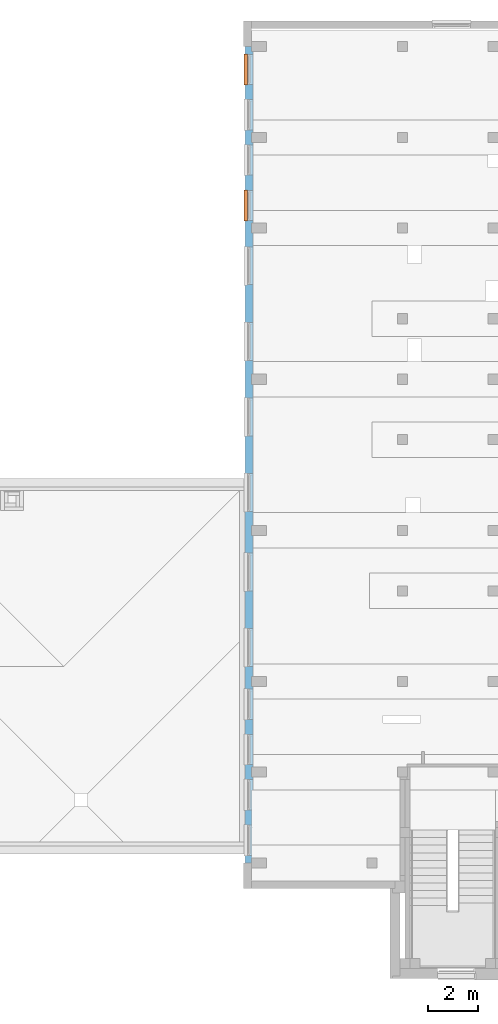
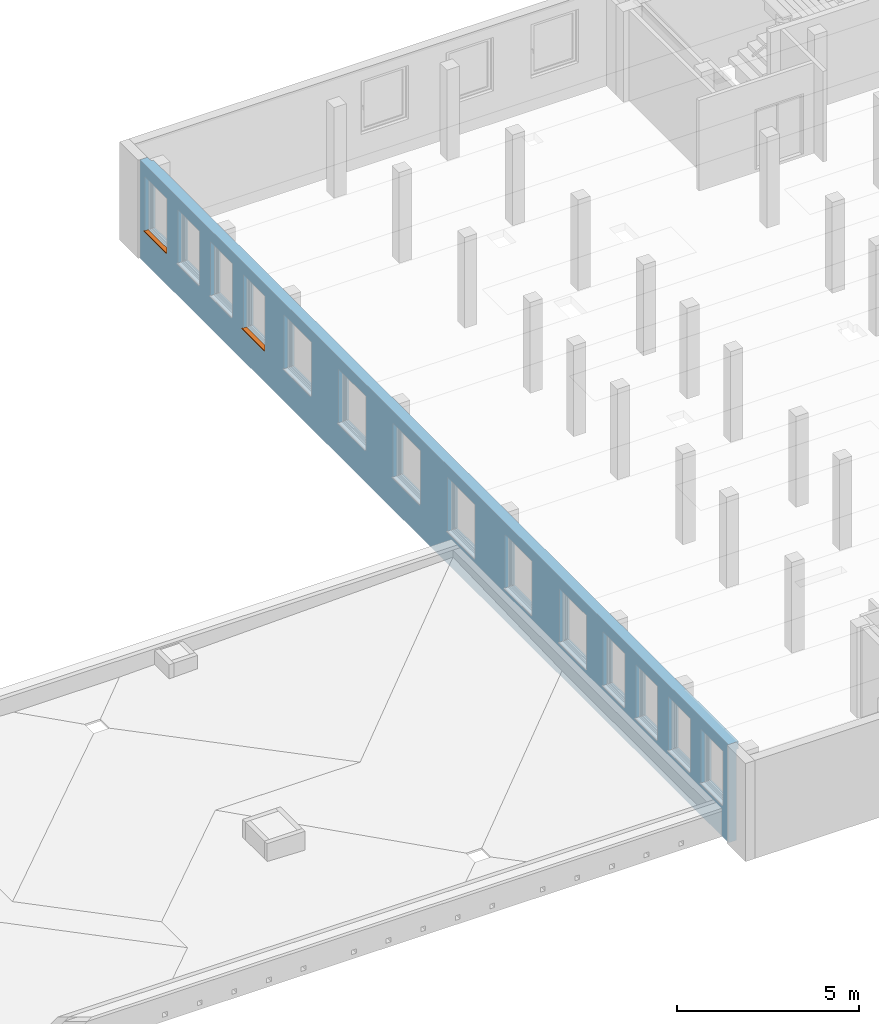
# One storey, part 21 of 27: 2 proxies, 14 openings, plus 1 element that does not belong to this part.
"""IFC4 building model written with IfcOpenShell, lengths in metres."""

from ifc_helpers import new_model, entity, si_unit, converted_unit, derived_unit, frame, origin, origin_with_axes, place, context, subcontext, project, spatial, polyline, outline, extrude, clip, bounded_halfspace, faceted_brep, source, transform, mapped, material, layer, layer_set, layer_usage, element, fill, save


model = new_model("IFC4")

# Units and contexts
model_context = context("Model", 3, precision=1e-05, world=origin())
body_context = subcontext(model_context, "Body", "Model", "MODEL_VIEW")
ifc_project = project(units=[si_unit("LENGTHUNIT", "METRE"), si_unit("AREAUNIT", "SQUARE_METRE"), si_unit("VOLUMEUNIT", "CUBIC_METRE"), si_unit("MASSUNIT", "GRAM", prefix="KILO"), converted_unit("PLANEANGLEUNIT", "DEGREE", entity("IfcPlaneAngleMeasure", 0.0174532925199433), si_unit("PLANEANGLEUNIT", "RADIAN"), dimensions=[0, 0, 0, 0, 0, 0, 0]), derived_unit("THERMALTRANSMITTANCEUNIT", [(si_unit("POWERUNIT", "WATT"), 1), (si_unit("THERMODYNAMICTEMPERATUREUNIT", "KELVIN"), -1), (si_unit("LENGTHUNIT", "METRE"), -2)]), derived_unit("VOLUMETRICFLOWRATEUNIT", [(si_unit("LENGTHUNIT", "METRE"), 3), (converted_unit("TIMEUNIT", "hour", entity("IfcTimeMeasure", 3600.0), si_unit("TIMEUNIT", "SECOND"), dimensions=[0, 0, 1, 0, 0, 0, 0]), -1), (si_unit("LENGTHUNIT", "METRE"), -1)])], contexts=[model_context])

# Site, building, storey
site_placement = place(None, origin())
site = spatial("IfcSite", under=ifc_project, at=site_placement, Name="3. ASŘ", CompositionType="ELEMENT")
building_placement = place(site_placement, origin())
building = spatial("IfcBuilding", under=site, at=building_placement, Name="Pavilon C", CompositionType="ELEMENT")
storey_placement = place(building_placement, frame((0.0, 0.0, 7.2)))
storey = spatial("IfcBuildingStorey", under=building, at=storey_placement, Name="Půdorys 3.NP", CompositionType="ELEMENT", Elevation=7.2)

# Wall, openings, proxies
ifc_material_1 = material(Name="ZELEZOBETONOVÁ KCE")
ifc_layer = layer(ifc_material_1, 0.32)
ifc_layer_set = layer_set([ifc_layer])
ifc_layer_usage = layer_usage(ifc_layer_set, "AXIS2", "POSITIVE", 0.0)
wall_placement = place(storey_placement, frame((24.5, 32.4, -0.1), z_axis=(0.0, 0.0, 1.0), x_axis=(-2.24566593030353e-16, -1.0, 0.0)))
wall = element("IfcWall", 1, at=wall_placement, inside=storey, material=ifc_layer_usage, Name="ZELEZOBETONOVÁ KCE", context=body_context, shape_type="Clipping", body=[
    clip(clip(clip(clip(clip(clip(clip(extrude(outline(polyline([(-32.4, 0.0), (-7.18613097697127e-17, -1.61376495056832e-32), (-7.18613097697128e-17, 0.32), (-32.2, 0.32), (-32.2, 0.25), (-32.4, 0.25), (-32.4, 0.0)])), frame((32.4, 0.0, 0.0), z_axis=(0.0, 0.0, 1.0), x_axis=(1.0, 0.0, 0.0)), (0.0, 0.0, 1.0), 3.3), bounded_halfspace(frame((7.2, 0.285000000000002, 3.05), z_axis=(0.0, 0.0, 1.0), x_axis=(2.24566593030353e-16, -1.0, 0.0)), True, origin_with_axes(), polyline([(7.0, 0.320000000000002), (7.0, 0.250000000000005), (7.4, 0.250000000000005), (7.4, 0.320000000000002), (7.0, 0.320000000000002)]))), bounded_halfspace(frame((3.6, 0.285000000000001, 3.05), z_axis=(0.0, 0.0, 1.0), x_axis=(2.24566593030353e-16, -1.0, 0.0)), True, origin_with_axes(), polyline([(3.4, 0.320000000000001), (3.4, 0.250000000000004), (3.8, 0.250000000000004), (3.8, 0.320000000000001), (3.4, 0.320000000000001)]))), bounded_halfspace(frame((19.2, 0.285000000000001, 3.05), z_axis=(0.0, 0.0, 1.0), x_axis=(2.24566593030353e-16, -1.0, 0.0)), True, origin_with_axes(), polyline([(19.0, 0.320000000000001), (19.0, 0.249999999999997), (19.4, 0.249999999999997), (19.4, 0.320000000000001), (19.0, 0.320000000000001)]))), bounded_halfspace(frame((25.2, 0.284999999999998, 3.05), z_axis=(0.0, 0.0, 1.0), x_axis=(2.24566593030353e-16, -1.0, 0.0)), True, origin_with_axes(), polyline([(25.0, 0.319999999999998), (25.0, 0.249999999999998), (25.4, 0.249999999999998), (25.4, 0.319999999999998), (25.0, 0.319999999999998)]))), bounded_halfspace(frame((28.8, 0.284999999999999, 3.05), z_axis=(0.0, 0.0, 1.0), x_axis=(2.24566593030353e-16, -1.0, 0.0)), True, origin_with_axes(), polyline([(28.6, 0.319999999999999), (28.6, 0.249999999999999), (29.0, 0.249999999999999), (29.0, 0.319999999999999), (28.6, 0.319999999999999)]))), bounded_halfspace(frame((32.3, 0.285, 3.05), z_axis=(0.0, 0.0, 1.0), x_axis=(2.24566593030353e-16, -1.0, 0.0)), True, origin_with_axes(), polyline([(32.2, 0.32), (32.2, 0.25), (32.4, 0.25), (32.4, 0.32), (32.2, 0.32)]))), bounded_halfspace(frame((13.2, 0.285000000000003, 3.05), z_axis=(0.0, 0.0, 1.0), x_axis=(2.24566593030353e-16, -1.0, 0.0)), True, origin_with_axes(), polyline([(13.0, 0.319999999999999), (13.0, 0.250000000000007), (13.4, 0.250000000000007), (13.4, 0.319999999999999), (13.0, 0.319999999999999)]))),
])
opening_1_placement = place(wall_placement, frame((25.5, -1.54950949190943e-15, 1.1), z_axis=(0.0, 1.0, 0.0), x_axis=(0.0, 0.0, 1.0)))
element("IfcOpeningElement", 2, at=opening_1_placement, cuts=wall, Name="Okenní otvor", ObjectType="Opening", context=body_context, shape_type="SweptSolid", body=[
    extrude(outline(polyline([(0.0, 1.2), (1.8, 1.2), (1.8, 0.0), (0.0, 0.0), (0.0, 1.2)])), origin_with_axes(), (0.0, 0.0, 1.0), 0.32),
])
opening_2_placement = place(wall_placement, frame((27.3, -1.1452896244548e-15, 1.1), z_axis=(0.0, 1.0, 0.0), x_axis=(0.0, 0.0, 1.0)))
element("IfcOpeningElement", 3, at=opening_2_placement, cuts=wall, Name="Okenní otvor", ObjectType="Opening", context=body_context, shape_type="SweptSolid", body=[
    extrude(outline(polyline([(0.0, 1.2), (1.8, 1.2), (1.8, 0.0), (0.0, 0.0), (0.0, 1.2)])), origin_with_axes(), (0.0, 0.0, 1.0), 0.32),
])
opening_3_placement = place(wall_placement, frame((29.1, -7.41069757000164e-16, 1.1), z_axis=(0.0, 1.0, 0.0), x_axis=(0.0, 0.0, 1.0)))
element("IfcOpeningElement", 4, at=opening_3_placement, cuts=wall, Name="Okenní otvor", ObjectType="Opening", context=body_context, shape_type="SweptSolid", body=[
    extrude(outline(polyline([(0.0, 1.2), (1.8, 1.2), (1.8, 0.0), (0.0, 0.0), (0.0, 1.2)])), origin_with_axes(), (0.0, 0.0, 1.0), 0.32),
])
opening_4_placement = place(wall_placement, frame((30.9, -3.36849889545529e-16, 1.1), z_axis=(0.0, 1.0, 0.0), x_axis=(0.0, 0.0, 1.0)))
element("IfcOpeningElement", 5, at=opening_4_placement, cuts=wall, Name="Okenní otvor", ObjectType="Opening", context=body_context, shape_type="SweptSolid", body=[
    extrude(outline(polyline([(0.0, 1.2), (1.8, 1.2), (1.8, 0.0), (0.0, 0.0), (0.0, 1.2)])), origin_with_axes(), (0.0, 0.0, 1.0), 0.32),
])
opening_5_placement = place(wall_placement, frame((13.95, -5.05274834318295e-16, 1.1), z_axis=(0.0, 1.0, 0.0), x_axis=(0.0, 0.0, 1.0)))
element("IfcOpeningElement", 6, at=opening_5_placement, cuts=wall, Name="Okenní otvor", ObjectType="Opening", context=body_context, shape_type="SweptSolid", body=[
    extrude(outline(polyline([(0.0, 1.5), (1.8, 1.5), (1.8, 0.0), (0.0, 0.0), (0.0, 1.5)])), origin_with_axes(), (0.0, 0.0, 1.0), 0.32),
])
opening_6_placement = place(wall_placement, frame((10.95, -1.17897461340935e-15, 1.1), z_axis=(0.0, 1.0, 0.0), x_axis=(0.0, 0.0, 1.0)))
element("IfcOpeningElement", 7, at=opening_6_placement, cuts=wall, Name="Okenní otvor", ObjectType="Opening", context=body_context, shape_type="SweptSolid", body=[
    extrude(outline(polyline([(0.0, 1.5), (1.8, 1.5), (1.8, 0.0), (0.0, 0.0), (0.0, 1.5)])), origin_with_axes(), (0.0, 0.0, 1.0), 0.32),
])
opening_7_placement = place(wall_placement, frame((16.95, 1.68424944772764e-16, 1.1), z_axis=(0.0, 1.0, 0.0), x_axis=(0.0, 0.0, 1.0)))
element("IfcOpeningElement", 8, at=opening_7_placement, cuts=wall, Name="Okenní otvor", ObjectType="Opening", context=body_context, shape_type="SweptSolid", body=[
    extrude(outline(polyline([(0.0, 1.5), (1.8, 1.5), (1.8, 0.0), (0.0, 0.0), (0.0, 1.5)])), origin_with_axes(), (0.0, 0.0, 1.0), 0.32),
])
opening_8_placement = place(wall_placement, frame((20.1, 8.75809712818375e-16, 1.1), z_axis=(0.0, 1.0, 0.0), x_axis=(0.0, 0.0, 1.0)))
element("IfcOpeningElement", 9, at=opening_8_placement, cuts=wall, Name="Okenní otvor", ObjectType="Opening", context=body_context, shape_type="SweptSolid", body=[
    extrude(outline(polyline([(0.0, 1.5), (1.8, 1.5), (1.8, 0.0), (0.0, 0.0), (0.0, 1.5)])), origin_with_axes(), (0.0, 0.0, 1.0), 0.32),
])
opening_9_placement = place(wall_placement, frame((23.1, -2.08846931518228e-15, 1.1), z_axis=(0.0, 1.0, 0.0), x_axis=(0.0, 0.0, 1.0)))
element("IfcOpeningElement", 10, at=opening_9_placement, cuts=wall, Name="Okenní otvor", ObjectType="Opening", context=body_context, shape_type="SweptSolid", body=[
    extrude(outline(polyline([(0.0, 1.5), (1.8, 1.5), (1.8, 0.0), (0.0, 0.0), (0.0, 1.5)])), origin_with_axes(), (0.0, 0.0, 1.0), 0.320000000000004),
])
opening_10_placement = place(wall_placement, frame((7.95, -1.85267439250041e-15, 1.1), z_axis=(0.0, 1.0, 0.0), x_axis=(0.0, 0.0, 1.0)))
element("IfcOpeningElement", 11, at=opening_10_placement, cuts=wall, Name="Okenní otvor", ObjectType="Opening", context=body_context, shape_type="SweptSolid", body=[
    extrude(outline(polyline([(0.0, 1.5), (1.8, 1.5), (1.8, 0.0), (0.0, 0.0), (0.0, 1.5)])), origin_with_axes(), (0.0, 0.0, 1.0), 0.320000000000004),
])
opening_11_placement = place(wall_placement, frame((2.10000000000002, 4.71589845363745e-16, 1.1), z_axis=(0.0, 1.0, 0.0), x_axis=(0.0, 0.0, 1.0)))
element("IfcOpeningElement", 12, at=opening_11_placement, cuts=wall, Name="Okenní otvor", ObjectType="Opening", context=body_context, shape_type="SweptSolid", body=[
    extrude(outline(polyline([(0.0, 1.2), (1.8, 1.2), (1.8, 0.0), (0.0, 0.0), (0.0, 1.2)])), origin_with_axes(), (0.0, 0.0, 1.0), 0.32),
])
opening_12_placement = place(wall_placement, frame((3.90000000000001, 8.75809712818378e-16, 1.1), z_axis=(0.0, 1.0, 0.0), x_axis=(0.0, 0.0, 1.0)))
element("IfcOpeningElement", 13, at=opening_12_placement, cuts=wall, Name="Okenní otvor", ObjectType="Opening", context=body_context, shape_type="SweptSolid", body=[
    extrude(outline(polyline([(0.0, 1.2), (1.8, 1.2), (1.8, 0.0), (0.0, 0.0), (0.0, 1.2)])), origin_with_axes(), (0.0, 0.0, 1.0), 0.32),
])
opening_13_placement = place(wall_placement, frame((5.7, 1.28002958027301e-15, 1.1), z_axis=(0.0, 1.0, 0.0), x_axis=(0.0, 0.0, 1.0)))
opening_13 = element("IfcOpeningElement", 14, at=opening_13_placement, cuts=wall, Name="Okenní otvor", ObjectType="Opening", context=body_context, shape_type="SweptSolid", body=[
    extrude(outline(polyline([(0.0, 1.2), (1.8, 1.2), (1.8, 0.0), (0.0, 0.0), (0.0, 1.2)])), origin_with_axes(), (0.0, 0.0, 1.0), 0.32),
])
opening_14_placement = place(wall_placement, frame((0.300000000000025, 6.73699779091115e-17, 1.1), z_axis=(-1.77635683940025e-16, 1.0, 0.0), x_axis=(0.0, 0.0, 1.0)))
opening_14 = element("IfcOpeningElement", 15, at=opening_14_placement, cuts=wall, Name="Okenní otvor", ObjectType="Opening", context=body_context, shape_type="SweptSolid", body=[
    extrude(outline(polyline([(0.0, 1.2), (1.8, 1.2), (1.8, 0.0), (0.0, 0.0), (0.0, 1.2)])), origin_with_axes(), (0.0, 0.0, 1.0), 0.32),
])
ifc_material_2 = material(Name="PLECH")
shared_shape_1 = source(origin_with_axes(), body_context, "Body", "Brep", [
    faceted_brep([(7.27595761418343e-15, -7.27595761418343e-15, 0.0), (7.27595761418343e-15, 0.0999999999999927, 0.0), (7.27595761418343e-15, 0.0999999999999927, 0.005), (7.27595761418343e-15, -7.27595761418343e-15, 0.005), (1.20000000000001, -7.27595761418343e-15, 0.0), (1.20000000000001, -7.27595761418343e-15, 0.005), (1.20000000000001, 0.0999999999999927, 0.005), (1.20000000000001, 0.0999999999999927, 0.0), (-0.0199999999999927, -7.27595761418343e-15, 0.0), (-0.0199999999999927, -0.0350000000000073, 0.0), (1.22000000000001, -0.0350000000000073, 0.0), (1.22000000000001, -7.27595761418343e-15, 0.0), (1.22000000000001, -7.27595761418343e-15, 0.005), (1.22000000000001, -0.0400000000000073, 0.005), (-0.0199999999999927, -0.0400000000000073, 0.005), (-0.0199999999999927, -7.27595761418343e-15, 0.005), (-0.0199999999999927, -0.0400000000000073, -0.025), (-0.0199999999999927, -0.0350000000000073, -0.025), (1.22000000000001, -0.0350000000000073, -0.025), (1.22000000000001, -0.0400000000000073, -0.025)], [[[0, 1, 2, 3]], [[4, 5, 6, 7]], [[1, 0, 8, 9, 10, 11, 4, 7]], [[2, 1, 7, 6]], [[3, 2, 6, 5, 12, 13, 14, 15]], [[8, 15, 14, 16, 17, 9]], [[11, 10, 18, 19, 13, 12]], [[15, 8, 0, 3]], [[5, 4, 11, 12]], [[16, 14, 13, 19]], [[17, 16, 19, 18]], [[9, 17, 18, 10]]], orient=[[False], [False], [False], [False], [False], [False], [False], [False], [False], [False], [False], [False]]),
    faceted_brep([(-0.0199999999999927, -7.27595761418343e-15, 0.0), (-0.0199999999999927, 0.0999999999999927, 0.0), (-0.0199999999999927, 0.0999999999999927, 0.005), (-0.0199999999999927, -7.27595761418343e-15, 0.005), (7.27595761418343e-15, -7.27595761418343e-15, 0.0), (7.27595761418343e-15, -7.27595761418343e-15, 0.005), (7.27595761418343e-15, 0.0999999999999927, 0.005), (7.27595761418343e-15, 0.0999999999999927, 0.0)], [[[0, 1, 2, 3]], [[4, 5, 6, 7]], [[1, 0, 4, 7]], [[2, 1, 7, 6]], [[3, 2, 6, 5]], [[0, 3, 5, 4]]], orient=[[False], [False], [False], [False], [False], [False]]),
    faceted_brep([(1.20000000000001, -7.27595761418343e-15, 0.0), (1.20000000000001, 0.0999999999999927, 0.0), (1.20000000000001, 0.0999999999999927, 0.005), (1.20000000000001, -7.27595761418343e-15, 0.005), (1.22000000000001, -7.27595761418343e-15, 0.0), (1.22000000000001, -7.27595761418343e-15, 0.005), (1.22000000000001, 0.0999999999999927, 0.005), (1.22000000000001, 0.0999999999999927, 0.0)], [[[0, 1, 2, 3]], [[4, 5, 6, 7]], [[1, 0, 4, 7]], [[2, 1, 7, 6]], [[3, 2, 6, 5]], [[0, 3, 5, 4]]], orient=[[False], [False], [False], [False], [False], [False]]),
])
proxy_1_placement = place(opening_13_placement, frame((0.0, 0.0, 0.0), z_axis=(1.0, 0.0, 0.0), x_axis=(0.0, 1.0, 0.0)))
proxy_1 = element("IfcBuildingElementProxy", 16, at=proxy_1_placement, inside=storey, material=ifc_material_2, Name="Parapet vnější", context=body_context, shape_type="MappedRepresentation", body=[
    mapped(shared_shape_1, transform((0.0, 0.0, 0.0), x_axis=(1.0, 0.0, 0.0), y_axis=(0.0, 1.0, 0.0), z_axis=(0.0, 0.0, 1.0), scale=1.0)),
])
fill(opening_13, proxy_1)
ifc_material_3 = material(Name="PLECH")
shared_shape_2 = source(origin_with_axes(), body_context, "Body", "Brep", [
    faceted_brep([(7.27595761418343e-15, -7.27595761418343e-15, 0.0), (7.27595761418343e-15, 0.0999999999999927, 0.0), (7.27595761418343e-15, 0.0999999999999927, 0.005), (7.27595761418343e-15, -7.27595761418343e-15, 0.005), (1.20000000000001, -7.27595761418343e-15, 0.0), (1.20000000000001, -7.27595761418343e-15, 0.005), (1.20000000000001, 0.0999999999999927, 0.005), (1.20000000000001, 0.0999999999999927, 0.0), (-0.0199999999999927, -7.27595761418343e-15, 0.0), (-0.0199999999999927, -0.0350000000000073, 0.0), (1.22000000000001, -0.0350000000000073, 0.0), (1.22000000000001, -7.27595761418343e-15, 0.0), (1.22000000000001, -7.27595761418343e-15, 0.005), (1.22000000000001, -0.0400000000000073, 0.005), (-0.0199999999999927, -0.0400000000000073, 0.005), (-0.0199999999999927, -7.27595761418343e-15, 0.005), (-0.0199999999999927, -0.0400000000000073, -0.025), (-0.0199999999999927, -0.0350000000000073, -0.025), (1.22000000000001, -0.0350000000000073, -0.025), (1.22000000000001, -0.0400000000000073, -0.025)], [[[0, 1, 2, 3]], [[4, 5, 6, 7]], [[1, 0, 8, 9, 10, 11, 4, 7]], [[2, 1, 7, 6]], [[3, 2, 6, 5, 12, 13, 14, 15]], [[8, 15, 14, 16, 17, 9]], [[11, 10, 18, 19, 13, 12]], [[15, 8, 0, 3]], [[5, 4, 11, 12]], [[16, 14, 13, 19]], [[17, 16, 19, 18]], [[9, 17, 18, 10]]], orient=[[False], [False], [False], [False], [False], [False], [False], [False], [False], [False], [False], [False]]),
    faceted_brep([(-0.0199999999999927, -7.27595761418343e-15, 0.0), (-0.0199999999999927, 0.0999999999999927, 0.0), (-0.0199999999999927, 0.0999999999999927, 0.005), (-0.0199999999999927, -7.27595761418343e-15, 0.005), (7.27595761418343e-15, -7.27595761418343e-15, 0.0), (7.27595761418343e-15, -7.27595761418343e-15, 0.005), (7.27595761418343e-15, 0.0999999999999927, 0.005), (7.27595761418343e-15, 0.0999999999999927, 0.0)], [[[0, 1, 2, 3]], [[4, 5, 6, 7]], [[1, 0, 4, 7]], [[2, 1, 7, 6]], [[3, 2, 6, 5]], [[0, 3, 5, 4]]], orient=[[False], [False], [False], [False], [False], [False]]),
    faceted_brep([(1.20000000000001, -7.27595761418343e-15, 0.0), (1.20000000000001, 0.0999999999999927, 0.0), (1.20000000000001, 0.0999999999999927, 0.005), (1.20000000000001, -7.27595761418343e-15, 0.005), (1.22000000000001, -7.27595761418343e-15, 0.0), (1.22000000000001, -7.27595761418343e-15, 0.005), (1.22000000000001, 0.0999999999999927, 0.005), (1.22000000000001, 0.0999999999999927, 0.0)], [[[0, 1, 2, 3]], [[4, 5, 6, 7]], [[1, 0, 4, 7]], [[2, 1, 7, 6]], [[3, 2, 6, 5]], [[0, 3, 5, 4]]], orient=[[False], [False], [False], [False], [False], [False]]),
])
proxy_2_placement = place(opening_14_placement, frame((0.0, 0.0, 0.0), z_axis=(1.0, 0.0, 0.0), x_axis=(0.0, 1.0, 0.0)))
proxy_2 = element("IfcBuildingElementProxy", 17, at=proxy_2_placement, inside=storey, material=ifc_material_3, Name="Parapet vnější", context=body_context, shape_type="MappedRepresentation", body=[
    mapped(shared_shape_2, transform((0.0, 0.0, 0.0), x_axis=(1.0, 0.0, 0.0), y_axis=(0.0, 1.0, 0.0), z_axis=(0.0, 0.0, 1.0), scale=1.0)),
])
fill(opening_14, proxy_2)

save(model, "model.ifc")
